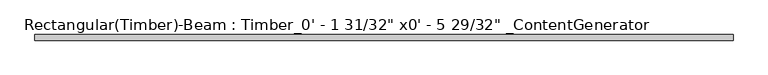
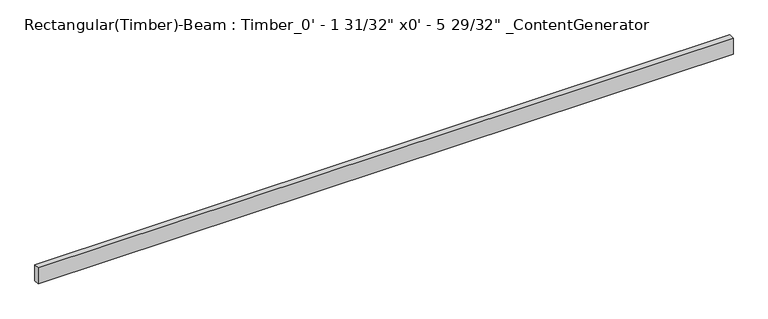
"""IFC4 building model written with IfcOpenShell, lengths in millimetres: beam geometry."""

import ifcopenshell
import ifcopenshell.guid

model = None  # the IFC model being written
_history = None  # IfcOwnerHistory: only IFC2X3 demands one
_inside = {}  # id of a spatial element -> (the spatial element, [elements in it])
_under = {}  # id of a project, library or spatial element -> (it, [spatial elements below it])
_declared = {}  # id of a project -> (the project, [libraries it declares])
_typed = {}  # id of a type object -> (the type object, [elements of that type])
_made_of = {}  # id of a material, layer set ... -> (it, [elements and type objects made of it])


def new_model(schema):
    """Start an empty IFC model of exactly this schema.

    Asked for "IFC4X3", IfcOpenShell would pick the latest addendum, in which some entities
    have other attributes; the version numbers below select the first issue.
    IFC2X3 requires an IfcOwnerHistory on every rooted entity: one is made here for all.
    """
    global model, _history
    if schema == "IFC4X3":
        model = ifcopenshell.file(schema_version=(4, 3, 0, 0))
    else:
        model = ifcopenshell.file(schema=schema)
    _inside.clear()
    _under.clear()
    _declared.clear()
    _typed.clear()
    _made_of.clear()
    _history = None
    if model.schema == "IFC2X3":
        org = make("IfcOrganization", Name="unknown")
        user = make(
            "IfcPersonAndOrganization",
            ThePerson=make("IfcPerson", FamilyName="unknown"),
            TheOrganization=org,
        )
        app = make(
            "IfcApplication",
            ApplicationDeveloper=org,
            Version="unknown",
            ApplicationFullName="unknown",
            ApplicationIdentifier="unknown",
        )
        _history = make(
            "IfcOwnerHistory",
            OwningUser=user,
            OwningApplication=app,
            ChangeAction="ADDED",
            CreationDate=0,
        )
    return model


def make(cls, **values):
    """One entity of the class cls with the attributes given. An attribute that is None is left unset."""
    return model.create_entity(
        cls, **{name: value for name, value in values.items() if value is not None}
    )


def rooted(cls, **values):
    """An entity with a GlobalId (a new one), such as an element, a storey or a relation."""
    return make(cls, GlobalId=ifcopenshell.guid.new(), OwnerHistory=_history, **values)


def si_unit(unit_type, name, prefix=None):
    """IfcSIUnit, for example si_unit("LENGTHUNIT", "METRE", prefix="MILLI")."""
    return make("IfcSIUnit", UnitType=unit_type, Prefix=prefix, Name=name)


def assignment(units):
    """IfcUnitAssignment: the units of a project."""
    return None if units is None else make("IfcUnitAssignment", Units=units)


def point(xyz):
    """IfcCartesianPoint."""
    return None if xyz is None else make("IfcCartesianPoint", Coordinates=xyz)


def direction(xyz):
    """IfcDirection."""
    return None if xyz is None else make("IfcDirection", DirectionRatios=xyz)


def frame(location, z_axis=None, x_axis=None):
    """IfcAxis2Placement3D, a coordinate frame: its origin and axes. An axis left out is left unset."""
    return make(
        "IfcAxis2Placement3D",
        Location=point(location),
        Axis=direction(z_axis),
        RefDirection=direction(x_axis),
    )


def origin():
    """The frame at (0, 0, 0) with its axes left unset."""
    return frame((0.0, 0.0, 0.0))


def place(relative_to, where):
    """IfcLocalPlacement: puts the frame where relative to a parent placement (None: the world)."""
    return make(
        "IfcLocalPlacement", PlacementRelTo=relative_to, RelativePlacement=where
    )


def context(
    kind, dimensions, precision=None, world=None, true_north=None, identifier=None
):
    """IfcGeometricRepresentationContext, for example the 3D "Model" context."""
    return make(
        "IfcGeometricRepresentationContext",
        ContextIdentifier=identifier,
        ContextType=kind,
        CoordinateSpaceDimension=dimensions,
        Precision=precision,
        WorldCoordinateSystem=world,
        TrueNorth=true_north,
    )


def project(units=None, contexts=None):
    """IfcProject with its units and contexts."""
    return rooted(
        "IfcProject",
        Name="project",
        RepresentationContexts=contexts,
        UnitsInContext=assignment(units),
    )


def spatial(cls, under=None, at=None, **own):
    """A site, building, storey or space (cls), placed at a placement, below another one or the project."""
    s = rooted(cls, ObjectPlacement=at, **own)
    if under is not None:
        _under.setdefault(under.id(), (under, []))[1].append(s)
    return s


def polyline(points):
    """IfcPolyline through the points."""
    return make("IfcPolyline", Points=[point(p) for p in points])


def outline(outer, holes=None, kind="AREA"):
    """IfcArbitraryClosedProfileDef: a profile drawn as a closed curve; with holes, ...WithVoids."""
    if holes is None:
        return make("IfcArbitraryClosedProfileDef", ProfileType=kind, OuterCurve=outer)
    return make(
        "IfcArbitraryProfileDefWithVoids",
        ProfileType=kind,
        OuterCurve=outer,
        InnerCurves=holes,
    )


def extrude(swept, where, along, depth):
    """IfcExtrudedAreaSolid: the profile swept, set in the frame where, extruded along a direction by depth."""
    return make(
        "IfcExtrudedAreaSolid",
        SweptArea=swept,
        Position=where,
        ExtrudedDirection=direction(along),
        Depth=depth,
    )


def shape(context_of_items, identifier, shape_type, items):
    """IfcShapeRepresentation: the items that make up one representation, for example the "Body"."""
    return make(
        "IfcShapeRepresentation",
        ContextOfItems=context_of_items,
        RepresentationIdentifier=identifier,
        RepresentationType=shape_type,
        Items=items,
    )


def source(mapping_origin, context_of_items, identifier, shape_type, items):
    """IfcRepresentationMap: a shape defined once, which mapped items show again and again."""
    return make(
        "IfcRepresentationMap",
        MappingOrigin=mapping_origin,
        MappedRepresentation=shape(context_of_items, identifier, shape_type, items),
    )


def transform(
    local_origin,
    x_axis=None,
    y_axis=None,
    z_axis=None,
    scale=None,
    scale2=None,
    scale3=None,
    uniform=True,
):
    """IfcCartesianTransformationOperator3D, or its non-uniform kind. x_axis, y_axis, z_axis: its Axis1, 2, 3."""
    if uniform:
        return make(
            "IfcCartesianTransformationOperator3D",
            Axis1=direction(x_axis),
            Axis2=direction(y_axis),
            LocalOrigin=point(local_origin),
            Scale=scale,
            Axis3=direction(z_axis),
        )
    return make(
        "IfcCartesianTransformationOperator3DnonUniform",
        Axis1=direction(x_axis),
        Axis2=direction(y_axis),
        LocalOrigin=point(local_origin),
        Scale=scale,
        Axis3=direction(z_axis),
        Scale2=scale2,
        Scale3=scale3,
    )


def mapped(mapping_source, mapping_target):
    """IfcMappedItem: shows the shape of a source again, moved by a transform."""
    return make(
        "IfcMappedItem", MappingSource=mapping_source, MappingTarget=mapping_target
    )


def made_of(thing, what):
    """Note that an element or type object is made of a material, layer set ...; save() writes the relation."""
    if what is not None:
        _made_of.setdefault(what.id(), (what, []))[1].append(thing)
    return thing


def element(
    cls,
    number,
    at=None,
    inside=None,
    cuts=None,
    type_object=None,
    material=None,
    context=None,
    identifier="Body",
    shape_type=None,
    held_by="IfcProductDefinitionShape",
    body=None,
    shapes=None,
    **own,
):
    """One element of the class cls, such as IfcWall. Its Tag is "e" and its number.

    at: its placement. inside: the storey or other place that contains it. cuts: it is an
    opening in that element (IfcRelVoidsElement). A single representation is given by context,
    identifier, shape_type and body (its items); several are given by shapes. held_by: the class
    of the entity that holds the representations. save() writes the other relations.
    """
    e = rooted(cls, Tag="e%d" % number, ObjectPlacement=at, **own)
    if body is not None:
        shapes = [shape(context, identifier, shape_type, body)]
    if shapes is not None:
        e.Representation = make(held_by, Representations=shapes)
    if inside is not None:
        _inside.setdefault(inside.id(), (inside, []))[1].append(e)
    if cuts is not None:
        rooted(
            "IfcRelVoidsElement", RelatingBuildingElement=cuts, RelatedOpeningElement=e
        )
    if type_object is not None:
        _typed.setdefault(type_object.id(), (type_object, []))[1].append(e)
    return made_of(e, material)


def aggregate(whole, parts):
    """IfcRelAggregates: a whole, such as a stair, and the parts it consists of."""
    return rooted("IfcRelAggregates", RelatingObject=whole, RelatedObjects=parts)


def save(model, path):
    """Write the relations noted so far, then the file.

    IfcRelAggregates (storeys below a building ...), IfcRelContainedInSpatialStructure (elements
    in a storey), IfcRelDefinesByType, IfcRelAssociatesMaterial and IfcRelDeclares: one each for
    every whole, place, type object, material and project.
    """
    for whole, parts in _under.values():
        aggregate(whole, parts)
    for where, things in _inside.values():
        rooted(
            "IfcRelContainedInSpatialStructure",
            RelatedElements=things,
            RelatingStructure=where,
        )
    for kind, things in _typed.values():
        rooted("IfcRelDefinesByType", RelatedObjects=things, RelatingType=kind)
    for what, things in _made_of.values():
        rooted("IfcRelAssociatesMaterial", RelatedObjects=things, RelatingMaterial=what)
    for by, libraries in _declared.values():
        rooted("IfcRelDeclares", RelatingContext=by, RelatedDefinitions=libraries)
    model.write(path)


def beam_61d3dc7b(model_context):
    return source(origin(), model_context, "Body", "SweptSolid", [
        extrude(outline(polyline([(3124.2, 25.4), (3124.2, -25.4), (-3124.2, -25.4), (-3124.2, 25.4), (3124.2, 25.4)])), frame((0.0, 0.0, -76.2), z_axis=(0.0, 0.0, 1.0), x_axis=(1.0, 0.0, 0.0)), (0.0, 0.0, 1.0), 152.4),
    ])


if __name__ == "__main__":
    model = new_model("IFC4")
    model_context = context("Model", 3, world=origin())
    ifc_project = project(units=[si_unit("LENGTHUNIT", "METRE", prefix="MILLI")], contexts=[model_context])
    site = spatial("IfcSite", under=ifc_project)
    building = spatial("IfcBuilding", under=site)
    placement = place(None, origin())
    beam_shape = beam_61d3dc7b(model_context)
    element("IfcBeam", 1, ObjectType="Rectangular(Timber)-Beam : Timber_0' - 1 31/32\" x0' - 5 29/32\" _ContentGenerator", at=placement, inside=building, context=model_context, shape_type="MappedRepresentation", body=[
        mapped(beam_shape, transform((0.0, 0.0, 0.0), x_axis=(1.0, 0.0, 0.0), y_axis=(0.0, 1.0, 0.0), z_axis=(0.0, 0.0, 1.0))),
    ])
    save(model, "model.ifc")
